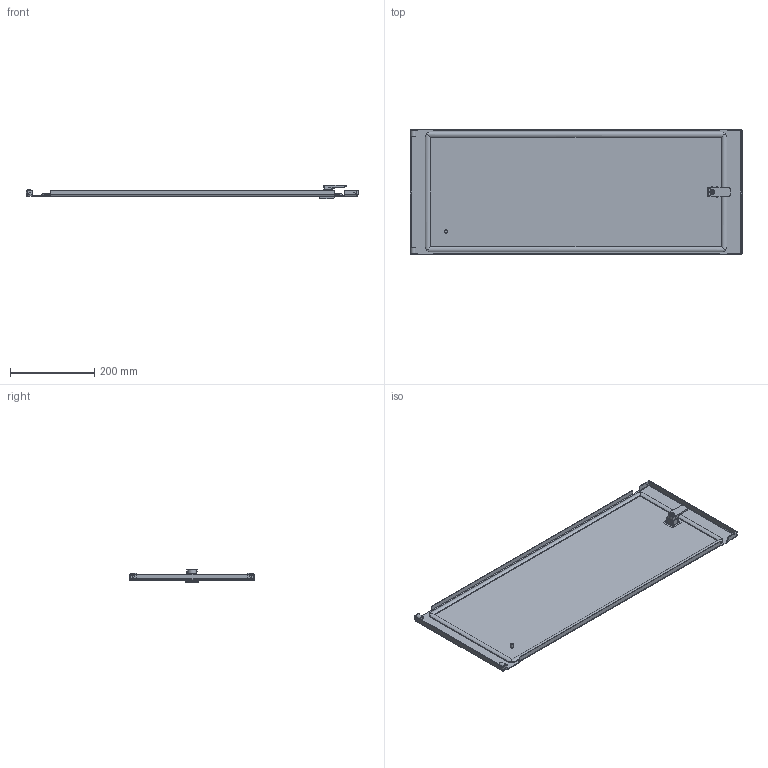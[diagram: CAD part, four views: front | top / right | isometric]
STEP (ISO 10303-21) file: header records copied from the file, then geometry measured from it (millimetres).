
FILE_DESCRIPTION(('STEP AP203'), '1');
FILE_NAME('Äâåðü ñåêöèîííàÿ 300õ800 ìì OptiBox M 419362 ÊÝÀÇ', '', ('UNSPECIFIED'), ('UNSPECIFIED'), 'C3D Converter', 'C3D Toolkit', '');
FILE_SCHEMA(('CONFIG_CONTROL_DESIGN'));
Length unit declared in the file: millimetre
Bounding box: 786.4 x 297 x 32.2 mm (x, y, z)
Volume: 618312 mm3; surface area: 584537.3 mm2
Topology: 6 solids, 6 shells, 355 faces, 928 edges, 588 vertices
Faces by surface type: plane 252, cylinder 92, bspline 8, cone 2, torus 1
Full cylindrical faces by diameter (mm): 0.75 x1, 1 x1, 3 x1, 5 x2, 6 x1, 7.5 x1, 9.3 x1, 10 x1, 20 x1
Entity records: 11864 total; most frequent: CARTESIAN_POINT 3095, ORIENTED_EDGE 1830, DIRECTION 1731, EDGE_CURVE 915, LINE 705, VECTOR 705, VERTEX_POINT 588, AXIS2_PLACEMENT_3D 513
